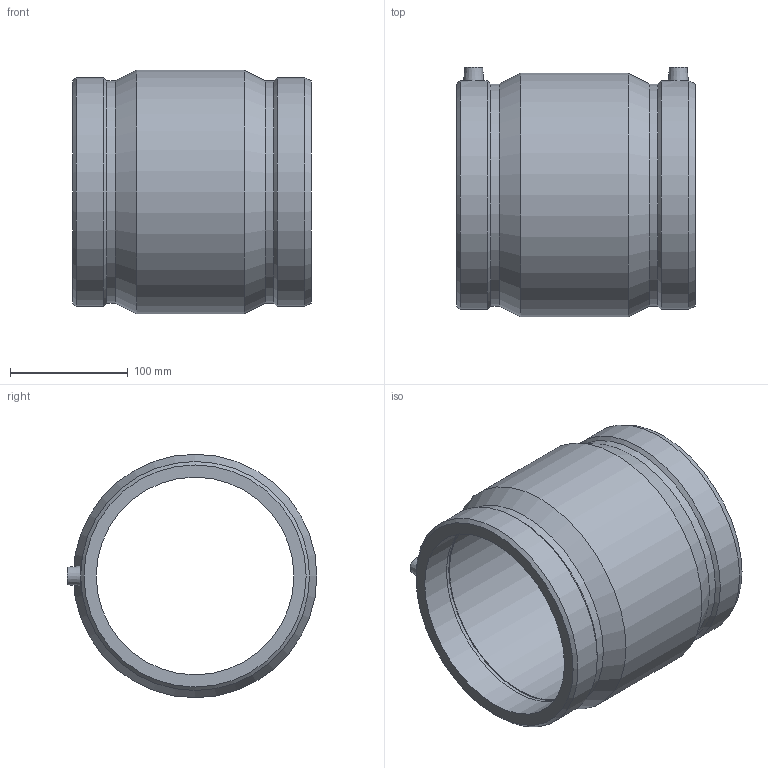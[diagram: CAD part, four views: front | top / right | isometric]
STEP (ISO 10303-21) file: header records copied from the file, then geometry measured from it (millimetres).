
FILE_DESCRIPTION(/* description */ ('PLASSON IPS COUPLER 6'''''),/* implementation_level */ '2;1');
FILE_NAME(/* name */ 'C:\Dropbox\KIMPROJECTS-Inventor 2019\99-16-3568-Processing Inch\ASTM ElectroFusion 2021\5901B\(_AS)5901B004060.ipt.stp',/* time_stamp */ '2021-08-30T09:48:35+03:00',/* author */ ('KIM'),/* organization */ (''),/* preprocessor_version */ 'ST-DEVELOPER v17.2',/* originating_system */ 'Autodesk Inventor 2019',/* authorisation */ '');
FILE_SCHEMA (('AUTOMOTIVE_DESIGN { 1 0 10303 214 3 1 1 }'));
Length unit declared in the file: inch
Products named in the file (1): *5901B004060
Bounding box: 202.95 x 212.22 x 207.01 mm (x, y, z)
Volume: 1895003.2 mm3; surface area: 254768.3 mm2
Topology: 1 solids, 1 shells, 32 faces, 76 edges, 54 vertices
Faces by surface type: cylinder 12, plane 10, cone 10
Full cylindrical faces by diameter (mm): 4 x2, 10 x2, 168 x3, 188.752 x2, 194.589 x2, 207.01 x1
Entity records: 1077 total; most frequent: CARTESIAN_POINT 231, DIRECTION 188, ORIENTED_EDGE 152, AXIS2_PLACEMENT_3D 83, EDGE_CURVE 76, VERTEX_POINT 54, CIRCLE 50, EDGE_LOOP 42
